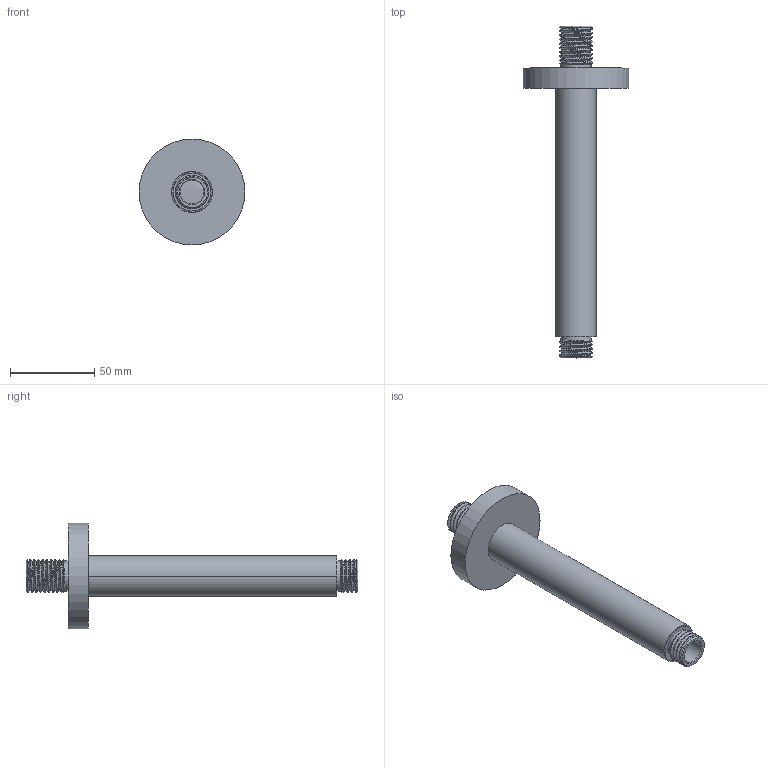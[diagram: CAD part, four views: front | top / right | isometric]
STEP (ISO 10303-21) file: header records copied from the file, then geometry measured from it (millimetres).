
FILE_DESCRIPTION(/* description */ (''),/* implementation_level */ '2;1');
FILE_NAME(/* name */ 'c:\worker\convert-fusion-r09\tmp\job-1\20\output\files\ca7b9261-4389-46f3-b58a-41c556f95bf4\cd791dae-f59d-4d7a-a3fc-d8e5b0c56f3b.stp',/* time_stamp */ '2019-12-14T20:02:15+00:00',/* author */ (''),/* organization */ (''),/* preprocessor_version */ 'ST-DEVELOPER v18',/* originating_system */ 'Autodesk Translation Framework v8.12.0.6',/* authorisation */ '');
FILE_SCHEMA (('AUTOMOTIVE_DESIGN { 1 0 10303 214 3 1 1 }'));
Length unit declared in the file: millimetre
Products named in the file (1): !RS23
Bounding box: 63 x 197.5 x 63 mm (x, y, z)
Volume: 24193.4 mm3; surface area: 41517.8 mm2
Topology: 5 solids, 5 shells, 87 faces, 216 edges, 147 vertices
Faces by surface type: cylinder 45, plane 22, cone 11, bspline 8, torus 1
Full cylindrical faces by diameter (mm): 14 x2, 16.938 x12, 18 x2, 19.791 x11, 22.5 x2, 22.7 x2, 24.5 x2, 27.5 x1, 30.5 x1, 60 x1, 63 x1
Entity records: 6385 total; most frequent: CARTESIAN_POINT 4331, ORIENTED_EDGE 432, DIRECTION 388, EDGE_CURVE 216, AXIS2_PLACEMENT_3D 166, VERTEX_POINT 147, EDGE_LOOP 105, FACE_OUTER_BOUND 87
